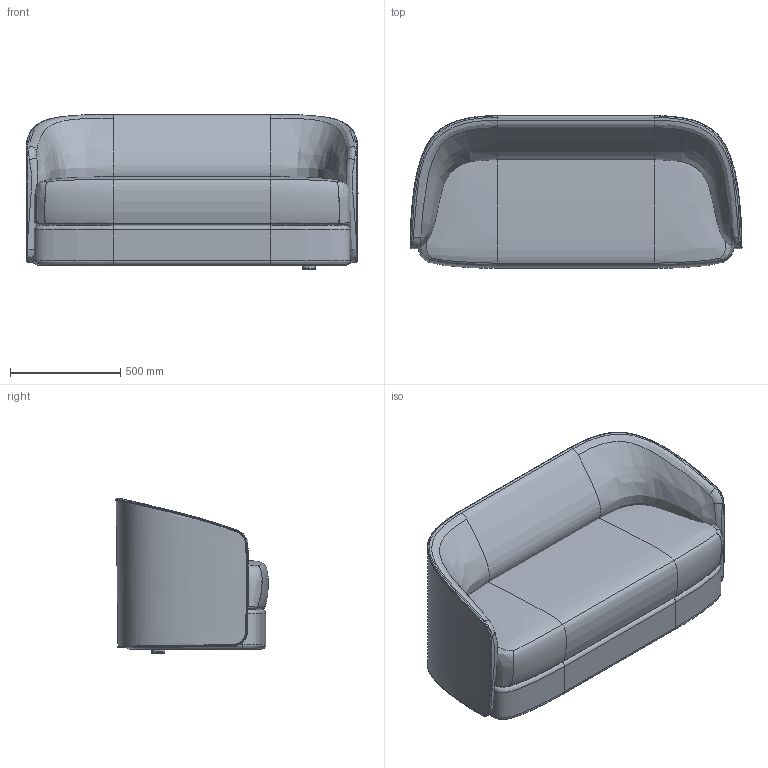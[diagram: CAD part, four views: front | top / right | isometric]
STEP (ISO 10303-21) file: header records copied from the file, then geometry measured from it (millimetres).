
FILE_DESCRIPTION(/* description */ (''),/* implementation_level */ '2;1');
FILE_NAME(/* name */ 'Covent Sofa 2. pers. ',/* time_stamp */ '2019-04-16T16:49:55+02:00',/* author */ (''),/* organization */ (''),/* preprocessor_version */ 'ST-DEVELOPER v15',/* originating_system */ '',/* authorisation */ '');
FILE_SCHEMA (('AUTOMOTIVE_DESIGN'));
Length unit declared in the file: millimetre
Products named in the file (2): Document; Block 03
Assembly tree (1 placements, depth 2):
  Document
    Block 03
Bounding box: 1504.01 x 691.05 x 703.26 mm (x, y, z)
Volume: 170955718.1 mm3; surface area: 7871996.1 mm2
Topology: 3 solids, 7 shells, 114 faces, 257 edges, 146 vertices
Faces by surface type: bspline 104, plane 10
Entity records: 54075 total; most frequent: CARTESIAN_POINT 52417, ORIENTED_EDGE 482, EDGE_CURVE 257, B_SPLINE_CURVE_WITH_KNOTS 216, VERTEX_POINT 146, ADVANCED_FACE 114, FACE_OUTER_BOUND 114, EDGE_LOOP 114
